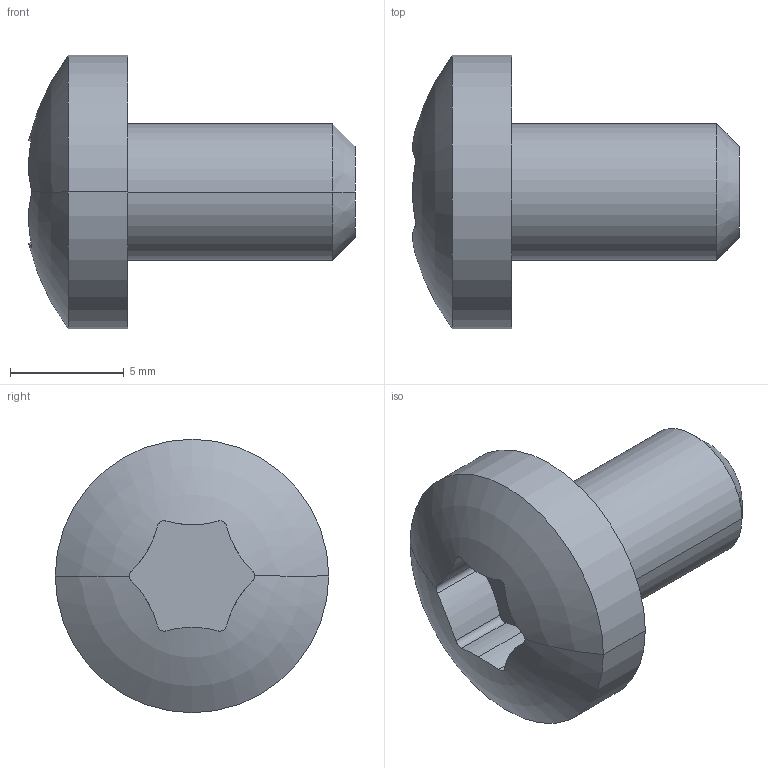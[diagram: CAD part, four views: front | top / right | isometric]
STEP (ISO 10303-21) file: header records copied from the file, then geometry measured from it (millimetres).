
FILE_DESCRIPTION (( 'STEP AP214' ), '1' );
FILE_NAME ('FO-00D-VTORX-M6X10-050 Âèíò Ì6õ10 ñàìîíàðåçàþùèé ïîëóêðóãëàÿ ãîëîâêà øåñòèðàäèóñíûé øëèö.STEP', '2025-08-27T10:08:14', ( '' ), ( '' ), 'SwSTEP 2.0', 'SolidWorks 2022', '' );
FILE_SCHEMA (( 'AUTOMOTIVE_DESIGN' ));
Length unit declared in the file: millimetre
Products named in the file (1): FO-00D-VTORX-M6X10-050 Винт М6х10 самонарезающий полукруглая головка шестирадиусный шлиц
Bounding box: 14.34 x 12 x 12 mm (x, y, z)
Volume: 630.7 mm3; surface area: 559.5 mm2
Topology: 1 solids, 1 shells, 26 faces, 65 edges, 42 vertices
Faces by surface type: cylinder 19, plane 3, sphere 2, cone 2
Entity records: 851 total; most frequent: CARTESIAN_POINT 201, ORIENTED_EDGE 130, DIRECTION 129, EDGE_CURVE 65, AXIS2_PLACEMENT_3D 54, VERTEX_POINT 42, CIRCLE 27, EDGE_LOOP 27
